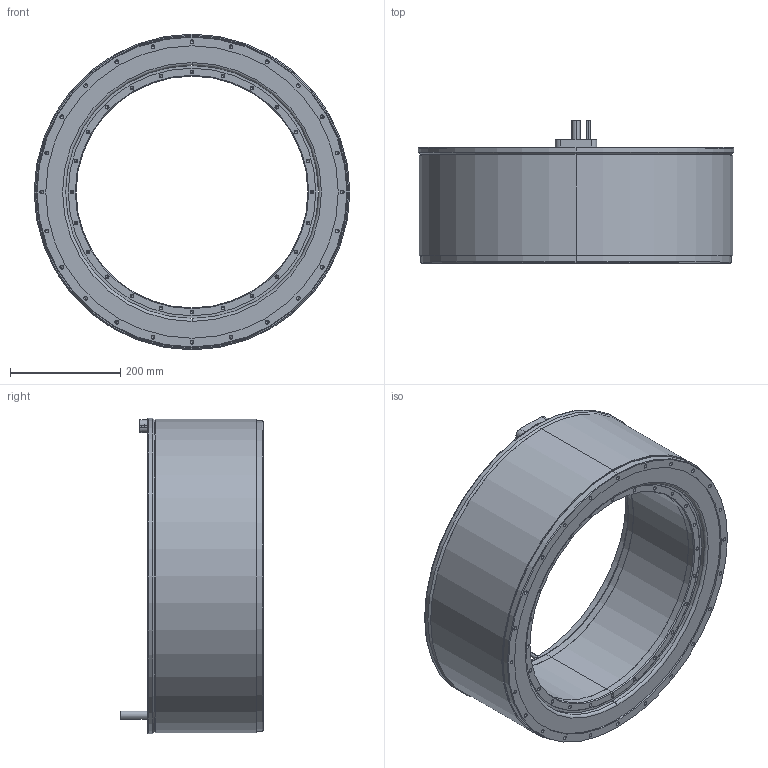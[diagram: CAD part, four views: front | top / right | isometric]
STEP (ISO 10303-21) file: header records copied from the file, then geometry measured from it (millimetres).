
FILE_DESCRIPTION (( 'STEP AP203' ), '1' );
FILE_NAME ('TM-2-GH-PD0(J0).STEP', '2023-06-06T04:00:09', ( '' ), ( '' ), 'SwSTEP 2.0', 'SolidWorks 2015', '' );
FILE_SCHEMA (( 'CONFIG_CONTROL_DESIGN' ));
Length unit declared in the file: millimetre
Products named in the file (3): TM-2-GH-PD0(J0)_Stator; TM-2-GH-PD0(J0); TM-2-GH(J0)_Rotor
Assembly tree (2 placements, depth 2):
  TM-2-GH-PD0(J0)
    TM-2-GH-PD0(J0)_Stator
    TM-2-GH(J0)_Rotor
Bounding box: 572 x 259 x 572 mm (x, y, z)
Volume: 22609609.8 mm3; surface area: 1431328.1 mm2
Topology: 2 solids, 2 shells, 523 faces, 1266 edges, 670 vertices
Faces by surface type: cylinder 248, cone 216, plane 51, torus 8
Entity records: 14111 total; most frequent: DIRECTION 2660, CARTESIAN_POINT 2268, ORIENTED_EDGE 2140, EDGE_CURVE 1070, AXIS2_PLACEMENT_3D 1062, VERTEX_POINT 670, EDGE_LOOP 646, VECTOR 536
